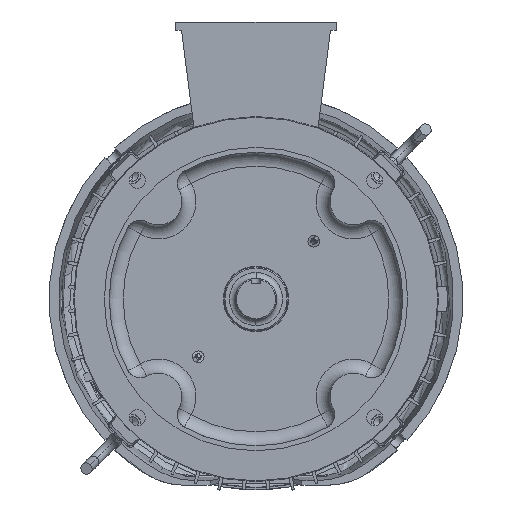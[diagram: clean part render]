
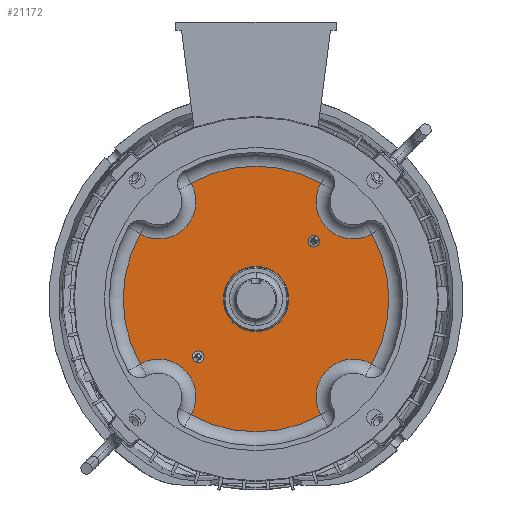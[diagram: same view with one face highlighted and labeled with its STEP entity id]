
A CAD part, front view. The second image highlights one B-rep face of the part: STEP entity #21172.
In plain terms, the highlighted planar face has unit normal (0, -1, 0) as drawn and (0, 0, 1) by its records, which use the part's own axes.
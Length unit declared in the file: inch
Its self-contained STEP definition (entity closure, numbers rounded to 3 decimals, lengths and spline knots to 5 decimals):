
#14226=CARTESIAN_POINT('',(0.,0.,3.75));
#14227=DIRECTION('',(0.,0.,1.));
#14228=DIRECTION('',(-0.873,0.489,0.));
#14229=AXIS2_PLACEMENT_3D('',#14226,#14227,#14228);
#14231=CARTESIAN_POINT('',(0.,0.,3.75));
#14232=DIRECTION('',(0.,0.,1.));
#14233=DIRECTION('',(-0.489,-0.873,0.));
#14234=AXIS2_PLACEMENT_3D('',#14231,#14232,#14233);
#14236=CARTESIAN_POINT('',(0.,0.,3.75));
#14237=DIRECTION('',(0.,0.,1.));
#14238=DIRECTION('',(0.873,-0.489,0.));
#14239=AXIS2_PLACEMENT_3D('',#14236,#14237,#14238);
#14241=CARTESIAN_POINT('',(0.,0.,3.75));
#14242=DIRECTION('',(0.,0.,1.));
#14243=DIRECTION('',(0.489,0.873,0.));
#14244=AXIS2_PLACEMENT_3D('',#14241,#14242,#14243);
#14246=CARTESIAN_POINT('',(1.56907,1.56907,3.75));
#14247=DIRECTION('',(0.,0.,1.));
#14248=DIRECTION('',(1.,0.,0.));
#14249=AXIS2_PLACEMENT_3D('',#14246,#14247,#14248);
#14251=CARTESIAN_POINT('',(1.56907,1.56907,3.75));
#14252=DIRECTION('',(0.,0.,1.));
#14253=DIRECTION('',(-1.,0.,0.));
#14254=AXIS2_PLACEMENT_3D('',#14251,#14252,#14253);
#14256=CARTESIAN_POINT('',(0.,0.,3.75));
#14257=DIRECTION('',(0.,0.,1.));
#14258=DIRECTION('',(0.,-1.,0.));
#14259=AXIS2_PLACEMENT_3D('',#14256,#14257,#14258);
#14261=CARTESIAN_POINT('',(0.,0.,3.75));
#14262=DIRECTION('',(0.,0.,1.));
#14263=DIRECTION('',(0.,1.,0.));
#14264=AXIS2_PLACEMENT_3D('',#14261,#14262,#14263);
#14266=CARTESIAN_POINT('',(-1.56907,-1.56907,3.75));
#14267=DIRECTION('',(0.,0.,1.));
#14268=DIRECTION('',(1.,0.,0.));
#14269=AXIS2_PLACEMENT_3D('',#14266,#14267,#14268);
#14271=CARTESIAN_POINT('',(-1.56907,-1.56907,3.75));
#14272=DIRECTION('',(0.,0.,1.));
#14273=DIRECTION('',(-1.,0.,0.));
#14274=AXIS2_PLACEMENT_3D('',#14271,#14272,#14273);
#17942=CARTESIAN_POINT('',(-2.65165,2.65165,3.75));
#17943=DIRECTION('',(0.,0.,1.));
#17944=DIRECTION('',(-0.491,-0.871,0.));
#17945=AXIS2_PLACEMENT_3D('',#17942,#17943,#17944);
#18020=CARTESIAN_POINT('',(2.65165,2.65165,3.75));
#18021=DIRECTION('',(0.,0.,1.));
#18022=DIRECTION('',(-0.871,0.491,0.));
#18023=AXIS2_PLACEMENT_3D('',#18020,#18021,#18022);
#18098=CARTESIAN_POINT('',(2.65165,-2.65165,3.75));
#18099=DIRECTION('',(0.,0.,1.));
#18100=DIRECTION('',(0.491,0.871,0.));
#18101=AXIS2_PLACEMENT_3D('',#18098,#18099,#18100);
#18123=CARTESIAN_POINT('',(-2.65165,-2.65165,3.75));
#18124=DIRECTION('',(0.,0.,1.));
#18125=DIRECTION('',(0.871,-0.491,0.));
#18126=AXIS2_PLACEMENT_3D('',#18123,#18124,#18125);
#18624=CARTESIAN_POINT('',(-3.15141,1.76448,3.75));
#18625=CARTESIAN_POINT('',(-3.15141,-1.76448,3.75));
#18626=VERTEX_POINT('',#18624);
#18627=VERTEX_POINT('',#18625);
#18632=CARTESIAN_POINT('',(-1.76448,-3.15141,3.75));
#18633=CARTESIAN_POINT('',(1.76448,-3.15141,3.75));
#18634=VERTEX_POINT('',#18632);
#18635=VERTEX_POINT('',#18633);
#18640=CARTESIAN_POINT('',(3.15141,-1.76448,3.75));
#18641=CARTESIAN_POINT('',(3.15141,1.76448,3.75));
#18642=VERTEX_POINT('',#18640);
#18643=VERTEX_POINT('',#18641);
#18644=CARTESIAN_POINT('',(1.76448,3.15141,3.75));
#18645=CARTESIAN_POINT('',(-1.76448,3.15141,3.75));
#18646=VERTEX_POINT('',#18644);
#18647=VERTEX_POINT('',#18645);
#18885=CARTESIAN_POINT('',(0.,-0.8895,3.75));
#18886=CARTESIAN_POINT('',(0.,0.8895,3.75));
#18887=VERTEX_POINT('',#18885);
#18888=VERTEX_POINT('',#18886);
#18975=CARTESIAN_POINT('',(-1.41257,-1.56907,3.75));
#18976=CARTESIAN_POINT('',(-1.72557,-1.56907,3.75));
#18977=VERTEX_POINT('',#18975);
#18978=VERTEX_POINT('',#18976);
#18983=CARTESIAN_POINT('',(1.72557,1.56907,3.75));
#18984=CARTESIAN_POINT('',(1.41257,1.56907,3.75));
#18985=VERTEX_POINT('',#18983);
#18986=VERTEX_POINT('',#18984);
#21135=CARTESIAN_POINT('',(0.,0.,3.75));
#21136=DIRECTION('',(0.,0.,1.));
#21137=DIRECTION('',(0.,1.,0.));
#21138=AXIS2_PLACEMENT_3D('',#21135,#21136,#21137);
#21139=PLANE('',#21138);
#21140=ORIENTED_EDGE('',*,*,#21081,.F.);
#21142=ORIENTED_EDGE('',*,*,#21141,.T.);
#21143=ORIENTED_EDGE('',*,*,#21125,.F.);
#21145=ORIENTED_EDGE('',*,*,#21144,.T.);
#21146=ORIENTED_EDGE('',*,*,#21110,.F.);
#21148=ORIENTED_EDGE('',*,*,#21147,.T.);
#21149=ORIENTED_EDGE('',*,*,#21096,.F.);
#21151=ORIENTED_EDGE('',*,*,#21150,.T.);
#21152=EDGE_LOOP('',(#21140,#21142,#21143,#21145,#21146,#21148,#21149,#21151));
#21153=FACE_OUTER_BOUND('',#21152,.F.);
#21155=ORIENTED_EDGE('',*,*,#21154,.T.);
#21157=ORIENTED_EDGE('',*,*,#21156,.T.);
#21158=EDGE_LOOP('',(#21155,#21157));
#21159=FACE_BOUND('',#21158,.F.);
#21161=ORIENTED_EDGE('',*,*,#21160,.T.);
#21163=ORIENTED_EDGE('',*,*,#21162,.T.);
#21164=EDGE_LOOP('',(#21161,#21163));
#21165=FACE_BOUND('',#21164,.F.);
#21167=ORIENTED_EDGE('',*,*,#21166,.T.);
#21169=ORIENTED_EDGE('',*,*,#21168,.T.);
#21170=EDGE_LOOP('',(#21167,#21169));
#21171=FACE_BOUND('',#21170,.F.);
#21172=ADVANCED_FACE('',(#21153,#21159,#21165,#21171),#21139,.T.);
#14230=CIRCLE('',#14229,3.61175);
#14235=CIRCLE('',#14234,3.61175);
#14240=CIRCLE('',#14239,3.61175);
#14245=CIRCLE('',#14244,3.61175);
#14250=CIRCLE('',#14249,0.1565);
#14255=CIRCLE('',#14254,0.1565);
#14260=CIRCLE('',#14259,0.8895);
#14265=CIRCLE('',#14264,0.8895);
#14270=CIRCLE('',#14269,0.1565);
#14275=CIRCLE('',#14274,0.1565);
#17946=CIRCLE('',#17945,1.01825);
#18024=CIRCLE('',#18023,1.01825);
#18102=CIRCLE('',#18101,1.01825);
#18127=CIRCLE('',#18126,1.01825);
#21081=EDGE_CURVE('',#18626,#18627,#14230,.T.);
#21096=EDGE_CURVE('',#18634,#18635,#14235,.T.);
#21110=EDGE_CURVE('',#18642,#18643,#14240,.T.);
#21125=EDGE_CURVE('',#18646,#18647,#14245,.T.);
#21141=EDGE_CURVE('',#18626,#18647,#17946,.T.);
#21144=EDGE_CURVE('',#18646,#18643,#18024,.T.);
#21147=EDGE_CURVE('',#18642,#18635,#18102,.T.);
#21150=EDGE_CURVE('',#18634,#18627,#18127,.T.);
#21154=EDGE_CURVE('',#18985,#18986,#14250,.T.);
#21156=EDGE_CURVE('',#18986,#18985,#14255,.T.);
#21160=EDGE_CURVE('',#18887,#18888,#14260,.T.);
#21162=EDGE_CURVE('',#18888,#18887,#14265,.T.);
#21166=EDGE_CURVE('',#18977,#18978,#14270,.T.);
#21168=EDGE_CURVE('',#18978,#18977,#14275,.T.);
